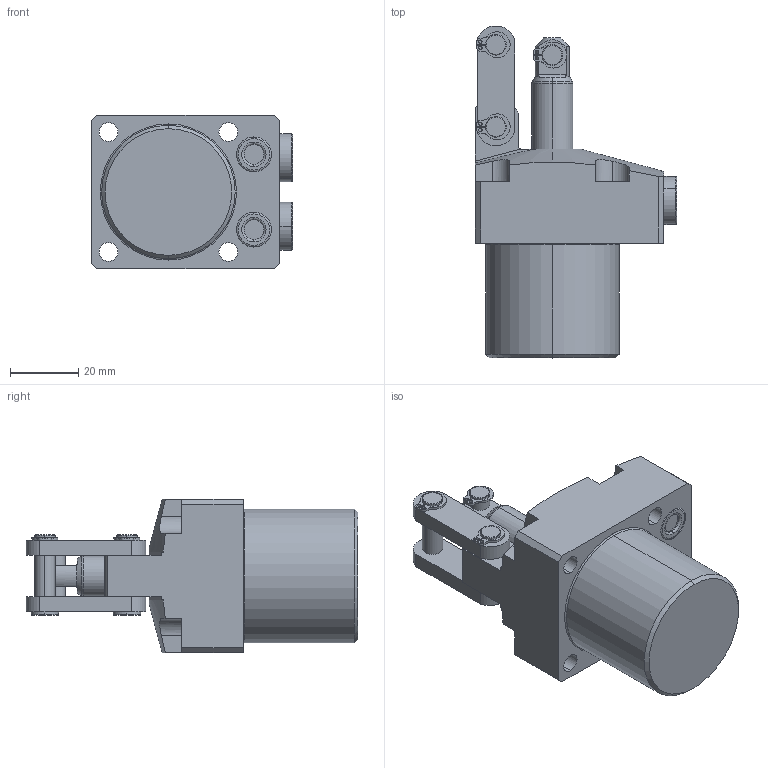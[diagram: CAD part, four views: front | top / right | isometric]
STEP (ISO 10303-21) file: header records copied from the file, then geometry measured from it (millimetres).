
FILE_DESCRIPTION(/* description */ (''),/* implementation_level */ '2;1');
FILE_NAME(/* name */ 'TPC02-F.stp',/* time_stamp */ '2025-01-05T10:35:04+08:00',/* author */ (''),/* organization */ (''),/* preprocessor_version */ 'ST-DEVELOPER v16.7',/* originating_system */ 'SIEMENS PLM Software NX 12.0',/* authorisation */ '');
FILE_SCHEMA (('AUTOMOTIVE_DESIGN { 1 0 10303 214 3 1 1 1 }'));
Length unit declared in the file: millimetre
Products named in the file (5): TPC02-F-04; TPC02-F-01; TPC02-F-02; TPC02-F-03; TPC02-F_stp
Assembly tree (5 placements, depth 2):
  TPC02-F_stp
    TPC02-F-03
    TPC02-F-02
    TPC02-F-01
    TPC02-F-04  x2
Bounding box: 58.8 x 96.98 x 45 mm (x, y, z)
Volume: 104235.5 mm3; surface area: 23180.5 mm2
Topology: 5 solids, 7 shells, 294 faces, 701 edges, 444 vertices
Faces by surface type: cylinder 120, plane 117, torus 34, cone 21, extrusion 2
Entity records: 8284 total; most frequent: CARTESIAN_POINT 1596, DIRECTION 1467, ORIENTED_EDGE 1310, EDGE_CURVE 655, AXIS2_PLACEMENT_3D 582, VERTEX_POINT 416, EDGE_LOOP 313, CIRCLE 306
